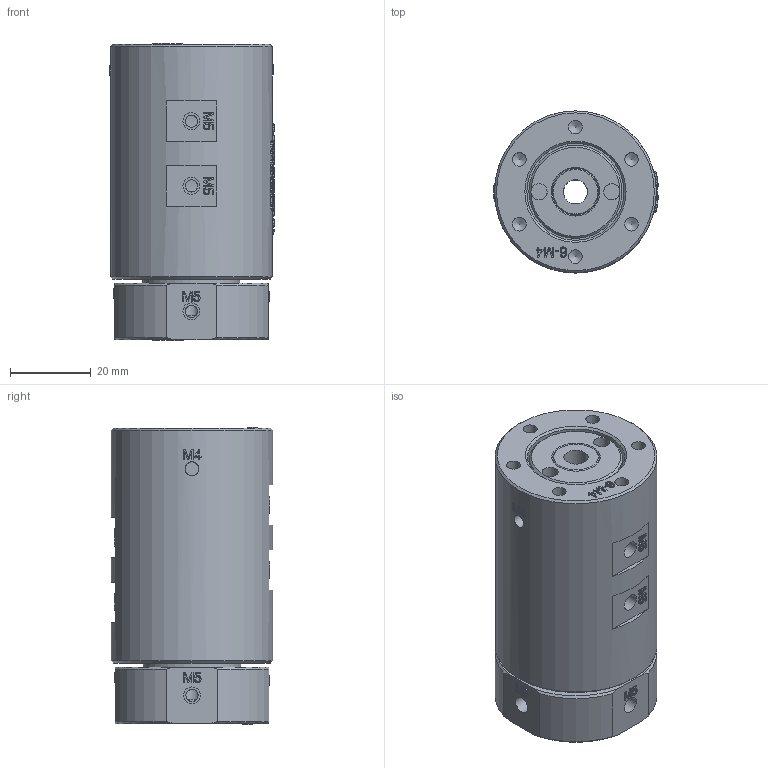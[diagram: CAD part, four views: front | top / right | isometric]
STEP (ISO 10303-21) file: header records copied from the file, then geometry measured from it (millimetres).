
FILE_DESCRIPTION(/* description */ (''),/* implementation_level */ '2;1');
FILE_NAME(/* name */ 'HQ04005-3D模型.stp',/* time_stamp */ '2025-09-01T13:40:43+08:00',/* author */ (''),/* organization */ (''),/* preprocessor_version */ 'ST-DEVELOPER v16.7',/* originating_system */ 'SIEMENS PLM Software NX 12.0',/* authorisation */ '');
FILE_SCHEMA (('AUTOMOTIVE_DESIGN { 1 0 10303 214 3 1 1 1 }'));
Length unit declared in the file: millimetre
Products named in the file (1): Admi441CC3E1w2oe
Bounding box: 40.68 x 40 x 73.4 mm (x, y, z)
Volume: 84809 mm3; surface area: 19630.5 mm2
Topology: 1 solids, 2 shells, 1165 faces, 3191 edges, 2124 vertices
Faces by surface type: plane 531, extrusion 482, cylinder 72, bspline 54, cone 26
Full cylindrical faces by diameter (mm): 3 x8, 3.4 x12, 4 x6, 4.1 x4, 4.2 x12, 6 x1, 10 x1, 11 x1, 18 x1, 23 x1, 24 x2, 32 x1, 40 x1
Entity records: 44252 total; most frequent: CARTESIAN_POINT 19272, ORIENTED_EDGE 6140, EDGE_CURVE 3070, DIRECTION 2994, B_SPLINE_CURVE_WITH_KNOTS 2596, VERTEX_POINT 2084, EDGE_LOOP 1342, ADVANCED_FACE 1165
